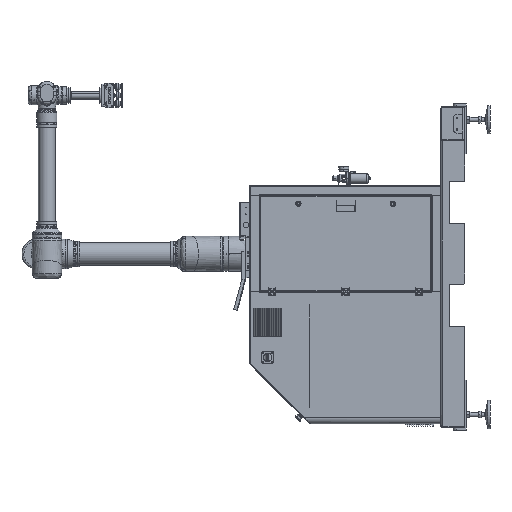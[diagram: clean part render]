
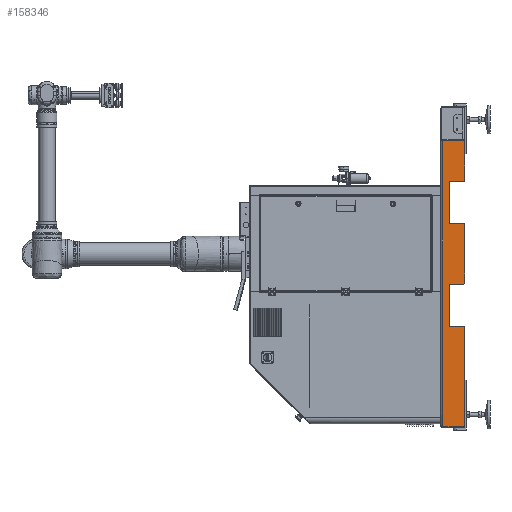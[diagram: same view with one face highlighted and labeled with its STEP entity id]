
A CAD part, left-side view. The second image highlights one B-rep face of the part: STEP entity #158346.
In plain terms, the highlighted planar face has unit normal (-1, 0, 0).
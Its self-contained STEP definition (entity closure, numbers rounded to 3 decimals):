
#110 = EDGE_CURVE ( 'NONE', #14220, #151450, #29191, .T. ) ;
#740 = DIRECTION ( 'NONE',  ( 0., 0., -1. ) ) ;
#4986 = EDGE_CURVE ( 'NONE', #14220, #129643, #35834, .T. ) ;
#7294 = DIRECTION ( 'NONE',  ( 1., 0., 0. ) ) ;
#14220 = VERTEX_POINT ( 'NONE', #77137 ) ;
#14764 = VECTOR ( 'NONE', #57504, 1000. ) ;
#18847 = DIRECTION ( 'NONE',  ( 0., -1., 0. ) ) ;
#19286 = CIRCLE ( 'NONE', #47599, 5. ) ;
#19547 = CARTESIAN_POINT ( 'NONE',  ( -400., -10., -754.929 ) ) ;
#23442 = EDGE_CURVE ( 'NONE', #90501, #149224, #37445, .T. ) ;
#25130 = LINE ( 'NONE', #96638, #158166 ) ;
#25621 = AXIS2_PLACEMENT_3D ( 'NONE', #86284, #46226, #47330 ) ;
#29191 = LINE ( 'NONE', #81953, #69416 ) ;
#30228 = CARTESIAN_POINT ( 'NONE',  ( -400., 0., 545.5 ) ) ;
#30496 = VERTEX_POINT ( 'NONE', #128143 ) ;
#30815 = CIRCLE ( 'NONE', #116319, 5. ) ;
#30934 = VERTEX_POINT ( 'NONE', #132953 ) ;
#32253 = VECTOR ( 'NONE', #146748, 1000. ) ;
#32320 = VECTOR ( 'NONE', #139854, 1000. ) ;
#33436 = EDGE_CURVE ( 'NONE', #164796, #123673, #25130, .T. ) ;
#34135 = CARTESIAN_POINT ( 'NONE',  ( -400., -125., 760. ) ) ;
#34376 = CARTESIAN_POINT ( 'NONE',  ( -400., 0., 760. ) ) ;
#34695 = DIRECTION ( 'NONE',  ( 0., 0., -1. ) ) ;
#34804 = ORIENTED_EDGE ( 'NONE', *, *, #52706, .T. ) ;
#35834 = LINE ( 'NONE', #94701, #76325 ) ;
#36147 = DIRECTION ( 'NONE',  ( -1., 0., 0. ) ) ;
#36180 = CARTESIAN_POINT ( 'NONE',  ( -400., -125., 760. ) ) ;
#36758 = CARTESIAN_POINT ( 'NONE',  ( -400., -120., 545.5 ) ) ;
#36909 = VECTOR ( 'NONE', #55950, 1000. ) ;
#37385 = ORIENTED_EDGE ( 'NONE', *, *, #146866, .F. ) ;
#37445 = LINE ( 'NONE', #98122, #92011 ) ;
#42006 = CARTESIAN_POINT ( 'NONE',  ( -400., -120., 320.5 ) ) ;
#42443 = EDGE_CURVE ( 'NONE', #162307, #164796, #149862, .T. ) ;
#44204 = CARTESIAN_POINT ( 'NONE',  ( -400., -45., 545.5 ) ) ;
#44340 = ORIENTED_EDGE ( 'NONE', *, *, #23442, .F. ) ;
#46226 = DIRECTION ( 'NONE',  ( -1., 0., 0. ) ) ;
#46523 = ORIENTED_EDGE ( 'NONE', *, *, #98457, .T. ) ;
#47330 = DIRECTION ( 'NONE',  ( 0., 0., -1. ) ) ;
#47599 = AXIS2_PLACEMENT_3D ( 'NONE', #55631, #132308, #104820 ) ;
#50548 = EDGE_CURVE ( 'NONE', #147153, #153460, #62615, .T. ) ;
#50614 = ORIENTED_EDGE ( 'NONE', *, *, #89094, .F. ) ;
#52706 = EDGE_CURVE ( 'NONE', #147153, #151450, #19286, .T. ) ;
#55631 = CARTESIAN_POINT ( 'NONE',  ( -400., -120., -229.5 ) ) ;
#55928 = EDGE_LOOP ( 'NONE', ( #114440, #34804, #112728, #100585, #163965, #155053, #50614, #146420, #37385, #44340, #81557, #144503, #93079, #66820, #46523, #59942 ) ) ;
#55950 = DIRECTION ( 'NONE',  ( 0., 0., -1. ) ) ;
#56307 = DIRECTION ( 'NONE',  ( 0., 0., -1. ) ) ;
#56330 = LINE ( 'NONE', #30228, #141089 ) ;
#57504 = DIRECTION ( 'NONE',  ( 0., -1., 0. ) ) ;
#58599 = VERTEX_POINT ( 'NONE', #128819 ) ;
#58619 = LINE ( 'NONE', #119838, #58827 ) ;
#58827 = VECTOR ( 'NONE', #107461, 1000. ) ;
#59942 = ORIENTED_EDGE ( 'NONE', *, *, #111417, .T. ) ;
#61311 = CIRCLE ( 'NONE', #133473, 5. ) ;
#62490 = VERTEX_POINT ( 'NONE', #19547 ) ;
#62615 = LINE ( 'NONE', #36180, #32320 ) ;
#62671 = CARTESIAN_POINT ( 'NONE',  ( -400., -120., 5.5 ) ) ;
#66820 = ORIENTED_EDGE ( 'NONE', *, *, #42443, .F. ) ;
#67600 = EDGE_CURVE ( 'NONE', #58599, #129643, #68510, .T. ) ;
#68465 = CARTESIAN_POINT ( 'NONE',  ( -400., 0., 0.5 ) ) ;
#68510 = LINE ( 'NONE', #68465, #32253 ) ;
#69416 = VECTOR ( 'NONE', #18847, 1000. ) ;
#71109 = CARTESIAN_POINT ( 'NONE',  ( -400., -45., 0.5 ) ) ;
#76325 = VECTOR ( 'NONE', #134630, 1000. ) ;
#77137 = CARTESIAN_POINT ( 'NONE',  ( -400., -45., -224.5 ) ) ;
#79526 = DIRECTION ( 'NONE',  ( -1., 0., 0. ) ) ;
#80507 = CIRCLE ( 'NONE', #25621, 5. ) ;
#81557 = ORIENTED_EDGE ( 'NONE', *, *, #90048, .F. ) ;
#81759 = VERTEX_POINT ( 'NONE', #36758 ) ;
#81953 = CARTESIAN_POINT ( 'NONE',  ( -400., 0., -224.5 ) ) ;
#82268 = CARTESIAN_POINT ( 'NONE',  ( -400., 0., 760. ) ) ;
#83042 = CARTESIAN_POINT ( 'NONE',  ( -400., -10., 760. ) ) ;
#84722 = CARTESIAN_POINT ( 'NONE',  ( -400., -45., 320.5 ) ) ;
#86284 = CARTESIAN_POINT ( 'NONE',  ( -400., -120., 550.5 ) ) ;
#86459 = DIRECTION ( 'NONE',  ( 0., -1., 0. ) ) ;
#87145 = EDGE_CURVE ( 'NONE', #58599, #30496, #30815, .T. ) ;
#87304 = CARTESIAN_POINT ( 'NONE',  ( -400., -125., 550.5 ) ) ;
#88819 = CARTESIAN_POINT ( 'NONE',  ( -400., -120., -224.5 ) ) ;
#89094 = EDGE_CURVE ( 'NONE', #30934, #30496, #112713, .T. ) ;
#89714 = DIRECTION ( 'NONE',  ( 0., 0., -1. ) ) ;
#90048 = EDGE_CURVE ( 'NONE', #81759, #90501, #56330, .T. ) ;
#90501 = VERTEX_POINT ( 'NONE', #44204 ) ;
#92011 = VECTOR ( 'NONE', #123521, 1000. ) ;
#92396 = VERTEX_POINT ( 'NONE', #42006 ) ;
#93079 = ORIENTED_EDGE ( 'NONE', *, *, #33436, .F. ) ;
#94701 = CARTESIAN_POINT ( 'NONE',  ( -400., -45., 760. ) ) ;
#96638 = CARTESIAN_POINT ( 'NONE',  ( -400., -125., 760. ) ) ;
#98122 = CARTESIAN_POINT ( 'NONE',  ( -400., -45., 760. ) ) ;
#98457 = EDGE_CURVE ( 'NONE', #162307, #62490, #105580, .T. ) ;
#100585 = ORIENTED_EDGE ( 'NONE', *, *, #4986, .T. ) ;
#102301 = VECTOR ( 'NONE', #86459, 1000. ) ;
#103841 = CARTESIAN_POINT ( 'NONE',  ( -400., -120., 315.5 ) ) ;
#104820 = DIRECTION ( 'NONE',  ( 0., 0., -1. ) ) ;
#105580 = LINE ( 'NONE', #83042, #36909 ) ;
#106431 = EDGE_CURVE ( 'NONE', #81759, #123673, #80507, .T. ) ;
#107461 = DIRECTION ( 'NONE',  ( 0., -1., 0. ) ) ;
#111417 = EDGE_CURVE ( 'NONE', #62490, #153460, #136446, .T. ) ;
#112480 = CARTESIAN_POINT ( 'NONE',  ( -400., -125., -229.5 ) ) ;
#112605 = EDGE_CURVE ( 'NONE', #30934, #92396, #61311, .T. ) ;
#112713 = LINE ( 'NONE', #34135, #144851 ) ;
#112728 = ORIENTED_EDGE ( 'NONE', *, *, #110, .F. ) ;
#114440 = ORIENTED_EDGE ( 'NONE', *, *, #50548, .F. ) ;
#116319 = AXIS2_PLACEMENT_3D ( 'NONE', #62671, #36147, #89714 ) ;
#119838 = CARTESIAN_POINT ( 'NONE',  ( -400., 0., 320.5 ) ) ;
#123521 = DIRECTION ( 'NONE',  ( 0., 0., -1. ) ) ;
#123673 = VERTEX_POINT ( 'NONE', #87304 ) ;
#124745 = CARTESIAN_POINT ( 'NONE',  ( -400., 1514.344, -754.929 ) ) ;
#128143 = CARTESIAN_POINT ( 'NONE',  ( -400., -125., 5.5 ) ) ;
#128819 = CARTESIAN_POINT ( 'NONE',  ( -400., -120., 0.5 ) ) ;
#129643 = VERTEX_POINT ( 'NONE', #71109 ) ;
#132308 = DIRECTION ( 'NONE',  ( -1., 0., 0. ) ) ;
#132953 = CARTESIAN_POINT ( 'NONE',  ( -400., -125., 315.5 ) ) ;
#133103 = AXIS2_PLACEMENT_3D ( 'NONE', #82268, #7294, #56307 ) ;
#133473 = AXIS2_PLACEMENT_3D ( 'NONE', #103841, #79526, #740 ) ;
#133522 = PLANE ( 'NONE',  #133103 ) ;
#134630 = DIRECTION ( 'NONE',  ( 0., 0., 1. ) ) ;
#134983 = CARTESIAN_POINT ( 'NONE',  ( -400., -10., 760. ) ) ;
#136446 = LINE ( 'NONE', #124745, #102301 ) ;
#139627 = CARTESIAN_POINT ( 'NONE',  ( -400., -125., -754.929 ) ) ;
#139854 = DIRECTION ( 'NONE',  ( 0., 0., -1. ) ) ;
#141089 = VECTOR ( 'NONE', #146300, 1000. ) ;
#141191 = FACE_OUTER_BOUND ( 'NONE', #55928, .T. ) ;
#144503 = ORIENTED_EDGE ( 'NONE', *, *, #106431, .T. ) ;
#144851 = VECTOR ( 'NONE', #34695, 1000. ) ;
#146300 = DIRECTION ( 'NONE',  ( 0., 1., 0. ) ) ;
#146323 = CARTESIAN_POINT ( 'NONE',  ( -400., -125., 760. ) ) ;
#146420 = ORIENTED_EDGE ( 'NONE', *, *, #112605, .T. ) ;
#146748 = DIRECTION ( 'NONE',  ( 0., 1., 0. ) ) ;
#146866 = EDGE_CURVE ( 'NONE', #149224, #92396, #58619, .T. ) ;
#147153 = VERTEX_POINT ( 'NONE', #112480 ) ;
#149224 = VERTEX_POINT ( 'NONE', #84722 ) ;
#149862 = LINE ( 'NONE', #34376, #14764 ) ;
#151450 = VERTEX_POINT ( 'NONE', #88819 ) ;
#153460 = VERTEX_POINT ( 'NONE', #139627 ) ;
#155053 = ORIENTED_EDGE ( 'NONE', *, *, #87145, .T. ) ;
#158166 = VECTOR ( 'NONE', #163045, 1000. ) ;
#158346 = ADVANCED_FACE ( 'NONE', ( #141191 ), #133522, .F. ) ;
#162307 = VERTEX_POINT ( 'NONE', #134983 ) ;
#163045 = DIRECTION ( 'NONE',  ( 0., 0., -1. ) ) ;
#163965 = ORIENTED_EDGE ( 'NONE', *, *, #67600, .F. ) ;
#164796 = VERTEX_POINT ( 'NONE', #146323 ) ;
